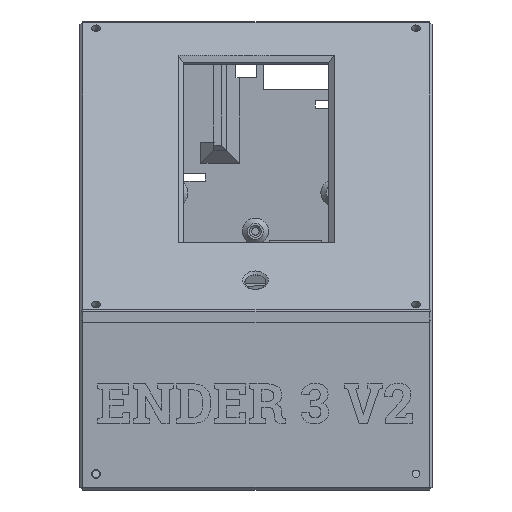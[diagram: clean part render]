
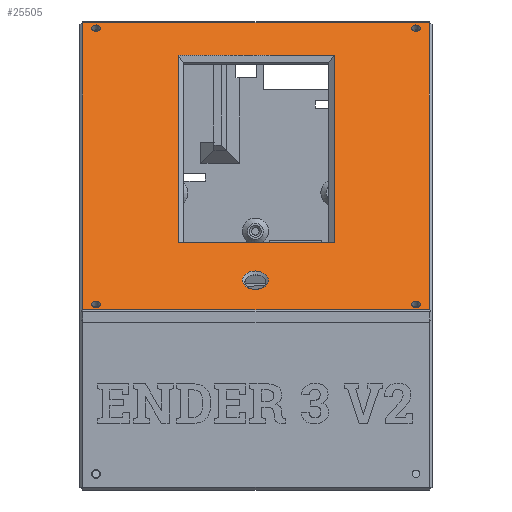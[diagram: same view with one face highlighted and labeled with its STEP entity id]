
A CAD part, front view. The second image highlights one B-rep face of the part: STEP entity #25505.
In plain terms, the highlighted planar face has unit normal (0, -0.707, 0.707).
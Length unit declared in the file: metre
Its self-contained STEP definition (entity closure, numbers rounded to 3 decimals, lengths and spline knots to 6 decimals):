
#832=CIRCLE('',#27109,0.005);
#833=CIRCLE('',#27110,0.0017);
#834=CIRCLE('',#27111,0.0017);
#835=CIRCLE('',#27112,0.0017);
#836=CIRCLE('',#27113,0.0017);
#2014=ORIENTED_EDGE('',*,*,#9220,.T.);
#2015=ORIENTED_EDGE('',*,*,#9221,.T.);
#2016=ORIENTED_EDGE('',*,*,#9222,.T.);
#2017=ORIENTED_EDGE('',*,*,#9223,.T.);
#2018=ORIENTED_EDGE('',*,*,#9224,.T.);
#2019=ORIENTED_EDGE('',*,*,#9225,.T.);
#2020=ORIENTED_EDGE('',*,*,#9226,.T.);
#2021=ORIENTED_EDGE('',*,*,#9227,.T.);
#2022=ORIENTED_EDGE('',*,*,#9228,.T.);
#2023=ORIENTED_EDGE('',*,*,#9229,.T.);
#2024=ORIENTED_EDGE('',*,*,#9230,.T.);
#2025=ORIENTED_EDGE('',*,*,#9231,.T.);
#2026=ORIENTED_EDGE('',*,*,#9232,.T.);
#9220=EDGE_CURVE('',#12856,#12856,#832,.T.);
#9221=EDGE_CURVE('',#12857,#12858,#15369,.T.);
#9222=EDGE_CURVE('',#12858,#12859,#15370,.T.);
#9223=EDGE_CURVE('',#12859,#12860,#15371,.T.);
#9224=EDGE_CURVE('',#12860,#12857,#15372,.T.);
#9225=EDGE_CURVE('',#12861,#12861,#833,.T.);
#9226=EDGE_CURVE('',#12862,#12862,#834,.T.);
#9227=EDGE_CURVE('',#12863,#12863,#835,.T.);
#9228=EDGE_CURVE('',#12864,#12864,#836,.T.);
#9229=EDGE_CURVE('',#12865,#12866,#15373,.T.);
#9230=EDGE_CURVE('',#12866,#12867,#15374,.T.);
#9231=EDGE_CURVE('',#12867,#12868,#15375,.T.);
#9232=EDGE_CURVE('',#12868,#12865,#15376,.T.);
#12856=VERTEX_POINT('',#37092);
#12857=VERTEX_POINT('',#37094);
#12858=VERTEX_POINT('',#37095);
#12859=VERTEX_POINT('',#37097);
#12860=VERTEX_POINT('',#37099);
#12861=VERTEX_POINT('',#37102);
#12862=VERTEX_POINT('',#37104);
#12863=VERTEX_POINT('',#37106);
#12864=VERTEX_POINT('',#37108);
#12865=VERTEX_POINT('',#37110);
#12866=VERTEX_POINT('',#37111);
#12867=VERTEX_POINT('',#37113);
#12868=VERTEX_POINT('',#37115);
#15369=LINE('',#37093,#17943);
#15370=LINE('',#37096,#17944);
#15371=LINE('',#37098,#17945);
#15372=LINE('',#37100,#17946);
#15373=LINE('',#37109,#17947);
#15374=LINE('',#37112,#17948);
#15375=LINE('',#37114,#17949);
#15376=LINE('',#37116,#17950);
#17943=VECTOR('',#29729,1.);
#17944=VECTOR('',#29730,1.);
#17945=VECTOR('',#29731,1.);
#17946=VECTOR('',#29732,1.);
#17947=VECTOR('',#29741,1.);
#17948=VECTOR('',#29742,1.);
#17949=VECTOR('',#29743,1.);
#17950=VECTOR('',#29744,1.);
#20529=EDGE_LOOP('',(#2014));
#20530=EDGE_LOOP('',(#2015,#2016,#2017,#2018));
#20531=EDGE_LOOP('',(#2019));
#20532=EDGE_LOOP('',(#2020));
#20533=EDGE_LOOP('',(#2021));
#20534=EDGE_LOOP('',(#2022));
#20535=EDGE_LOOP('',(#2023,#2024,#2025,#2026));
#22609=FACE_BOUND('',#20529,.T.);
#22610=FACE_BOUND('',#20530,.T.);
#22611=FACE_BOUND('',#20531,.T.);
#22612=FACE_BOUND('',#20532,.T.);
#22613=FACE_BOUND('',#20533,.T.);
#22614=FACE_BOUND('',#20534,.T.);
#22615=FACE_BOUND('',#20535,.T.);
#24602=PLANE('',#27108);
#25505=ADVANCED_FACE('',(#22609,#22610,#22611,#22612,#22613,#22614,#22615),
#24602,.F.);
#27108=AXIS2_PLACEMENT_3D('',#37090,#29725,#29726);
#27109=AXIS2_PLACEMENT_3D('',#37091,#29727,#29728);
#27110=AXIS2_PLACEMENT_3D('',#37101,#29733,#29734);
#27111=AXIS2_PLACEMENT_3D('',#37103,#29735,#29736);
#27112=AXIS2_PLACEMENT_3D('',#37105,#29737,#29738);
#27113=AXIS2_PLACEMENT_3D('',#37107,#29739,#29740);
#29725=DIRECTION('',(0.,0.707,-0.707));
#29726=DIRECTION('',(0.,0.707,0.707));
#29727=DIRECTION('',(0.,0.707,-0.707));
#29728=DIRECTION('',(0.,0.707,0.707));
#29729=DIRECTION('',(0.,-0.707,-0.707));
#29730=DIRECTION('',(1.,0.,0.));
#29731=DIRECTION('',(0.,0.707,0.707));
#29732=DIRECTION('',(-1.,0.,0.));
#29733=DIRECTION('',(0.,0.707,-0.707));
#29734=DIRECTION('',(0.,0.707,0.707));
#29735=DIRECTION('',(0.,0.707,-0.707));
#29736=DIRECTION('',(0.,0.707,0.707));
#29737=DIRECTION('',(0.,0.707,-0.707));
#29738=DIRECTION('',(0.,0.707,0.707));
#29739=DIRECTION('',(0.,0.707,-0.707));
#29740=DIRECTION('',(0.,0.707,0.707));
#29741=DIRECTION('',(0.,-0.707,-0.707));
#29742=DIRECTION('',(-1.,0.,0.));
#29743=DIRECTION('',(0.,0.707,0.707));
#29744=DIRECTION('',(1.,0.,0.));
#37090=CARTESIAN_POINT('',(-0.1354,-0.053207,0.127725));
#37091=CARTESIAN_POINT('',(-0.06794,-0.097023,0.083908));
#37092=CARTESIAN_POINT('',(-0.06794,-0.093488,0.087444));
#37093=CARTESIAN_POINT('',(-0.1344,-0.053207,0.127725));
#37094=CARTESIAN_POINT('',(-0.1344,0.001976,0.182907));
#37095=CARTESIAN_POINT('',(-0.1344,-0.108389,0.072542));
#37096=CARTESIAN_POINT('',(-0.1354,-0.108389,0.072542));
#37097=CARTESIAN_POINT('',(-0.001,-0.108389,0.072542));
#37098=CARTESIAN_POINT('',(-0.001,0.002269,0.1832));
#37099=CARTESIAN_POINT('',(-0.001,0.001976,0.182907));
#37100=CARTESIAN_POINT('',(-0.1354,0.001976,0.182907));
#37101=CARTESIAN_POINT('',(-0.0062,-0.106341,0.07459));
#37102=CARTESIAN_POINT('',(-0.0062,-0.105139,0.075792));
#37103=CARTESIAN_POINT('',(-0.1292,-0.106341,0.07459));
#37104=CARTESIAN_POINT('',(-0.1292,-0.105139,0.075792));
#37105=CARTESIAN_POINT('',(-0.1292,-0.000072,0.180859));
#37106=CARTESIAN_POINT('',(-0.1292,0.00113,0.182062));
#37107=CARTESIAN_POINT('',(-0.0062,-0.000072,0.180859));
#37108=CARTESIAN_POINT('',(-0.0062,0.00113,0.182062));
#37109=CARTESIAN_POINT('',(-0.0377,-0.08117,0.099761));
#37110=CARTESIAN_POINT('',(-0.0377,-0.010459,0.170472));
#37111=CARTESIAN_POINT('',(-0.0377,-0.082584,0.098347));
#37112=CARTESIAN_POINT('',(-0.1354,-0.082584,0.098347));
#37113=CARTESIAN_POINT('',(-0.0977,-0.082584,0.098347));
#37114=CARTESIAN_POINT('',(-0.0977,-0.053207,0.127725));
#37115=CARTESIAN_POINT('',(-0.0977,-0.010459,0.170472));
#37116=CARTESIAN_POINT('',(-0.0397,-0.010459,0.170472));
